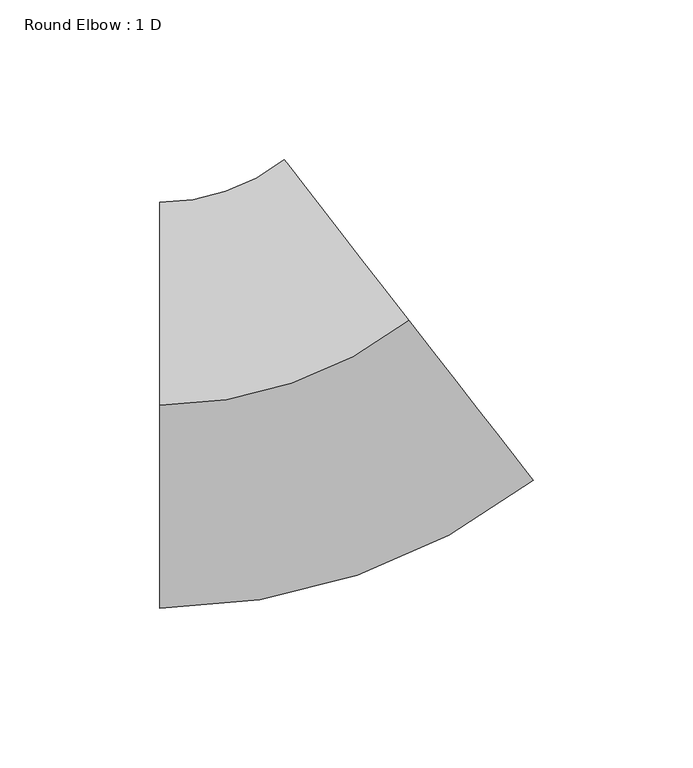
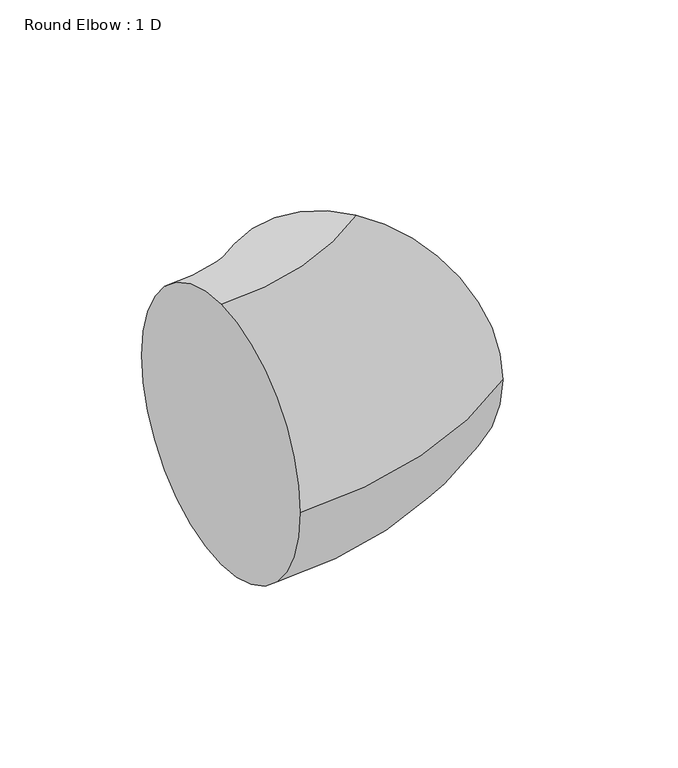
"""IFC4 building model written with IfcOpenShell, lengths in millimetres: duct fitting geometry, Round Elbow : 1 D."""

from ifc_helpers import new_model, si_unit, point, frame, origin, place, context, project, spatial, circle_curve, ellipse_curve, trimmed, source, transform, mapped, element, save
from ifc_brep_helpers import plane_surface, revolved_surface, advanced_brep


def round_elbow_1_d_50e30291(model_context):
    return source(origin(), model_context, "Body", "AdvancedBrep", [
        advanced_brep(
        [(-43.5119525, 0.0, 63.5), (-43.5119525, 63.5, 0.0), (-43.5119525, 0.0, -63.5), (-43.5119525, -63.5, 0.0), (34.3698573, 26.6833827, 63.5), (73.3107622, -23.4749259, 0.0), (34.3698573, 26.6833827, -63.5), (-4.5710476, 76.8416914, 0.0)],
        [
            (0, 1, circle_curve(frame((-43.5119525, 0.0, 0.0), z_axis=(-1.0, 0.0, 0.0), x_axis=(0.0, 1.0, 0.0)), 63.5)),
            (1, 2, circle_curve(frame((-43.5119525, 0.0, 0.0), z_axis=(-1.0, 0.0, 0.0), x_axis=(0.0, 1.0, 0.0)), 63.5)),
            (2, 3, circle_curve(frame((-43.5119525, 0.0, 0.0), z_axis=(-1.0, 0.0, 0.0), x_axis=(0.0, 1.0, 0.0)), 63.5)),
            (3, 0, circle_curve(frame((-43.5119525, 0.0, 0.0), z_axis=(-1.0, 0.0, 0.0), x_axis=(0.0, 1.0, 0.0)), 63.5)),
            (4, 5, circle_curve(frame((34.3698573, 26.6833827, 0.0), z_axis=(0.7898946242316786, 0.6132425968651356, 0.0), x_axis=(-0.6132425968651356, 0.7898946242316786, 0.0)), 63.5)),
            (5, 6, circle_curve(frame((34.3698573, 26.6833827, 0.0), z_axis=(0.7898946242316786, 0.6132425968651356, 0.0), x_axis=(-0.6132425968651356, 0.7898946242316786, 0.0)), 63.5)),
            (6, 7, circle_curve(frame((34.3698573, 26.6833827, 0.0), z_axis=(0.7898946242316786, 0.6132425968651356, 0.0), x_axis=(-0.6132425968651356, 0.7898946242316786, 0.0)), 63.5)),
            (7, 4, circle_curve(frame((34.3698573, 26.6833827, 0.0), z_axis=(0.7898946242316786, 0.6132425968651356, 0.0), x_axis=(-0.6132425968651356, 0.7898946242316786, 0.0)), 63.5)),
            (7, 1, circle_curve(frame((-43.5119525, 127.0, 0.0), z_axis=(0.0, 0.0, -1.0), x_axis=(0.0, -1.0, 0.0)), 63.5)),
            (0, 4, circle_curve(frame((-43.5119525, 127.0, 63.5), z_axis=(0.0, 0.0, 1.0), x_axis=(0.0, -1.0, 0.0)), 127.0)),
            (6, 2, circle_curve(frame((-43.5119525, 127.0, -63.5), z_axis=(0.0, 0.0, -1.0), x_axis=(0.0, -1.0, 0.0)), 127.0)),
            (5, 3, circle_curve(frame((-43.5119525, 127.0, 0.0), z_axis=(0.0, 0.0, -1.0), x_axis=(0.0, -1.0, 0.0)), 190.5)),
        ],
        [
            plane_surface(frame((-43.5119525, 0.0, 0.0), z_axis=(-1.0, 0.0, 0.0), x_axis=(0.0, 0.0, 1.0))),
            plane_surface(frame((34.3698573, 26.6833827, 0.0), z_axis=(0.7898946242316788, 0.6132425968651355, 0.0), x_axis=(0.0, 0.0, 1.0))),
            revolved_surface(trimmed(ellipse_curve(frame((-43.5119525, 0.0, 0.0), z_axis=(-1.0, 0.0, 0.0), x_axis=(0.0, 1.0, 0.0)), 63.5, 63.5), [point((-43.5119525, 0.0, 63.5))], [point((-43.5119525, 63.5, 0.0))], True, "CARTESIAN"), (-43.5119525, 127.0, 0.0), (0.0, 0.0, 1.0)),
            revolved_surface(trimmed(ellipse_curve(frame((-43.5119525, 0.0, 0.0), z_axis=(-1.0, 0.0, 0.0), x_axis=(0.0, 1.0, 0.0)), 63.5, 63.5), [point((-43.5119525, 63.5, 0.0))], [point((-43.5119525, 0.0, -63.5))], True, "CARTESIAN"), (-43.5119525, 127.0, 0.0), (0.0, 0.0, 1.0)),
            revolved_surface(trimmed(ellipse_curve(frame((-43.5119525, 0.0, 0.0), z_axis=(-1.0, 0.0, 0.0), x_axis=(0.0, 1.0, 0.0)), 63.5, 63.5), [point((-43.5119525, 0.0, -63.5))], [point((-43.5119525, -63.5, 0.0))], True, "CARTESIAN"), (-43.5119525, 127.0, 0.0), (0.0, 0.0, 1.0)),
            revolved_surface(trimmed(ellipse_curve(frame((-43.5119525, 0.0, 0.0), z_axis=(-1.0, 0.0, 0.0), x_axis=(0.0, 1.0, 0.0)), 63.5, 63.5), [point((-43.5119525, -63.5, 0.0))], [point((-43.5119525, 0.0, 63.5))], True, "CARTESIAN"), (-43.5119525, 127.0, 0.0), (0.0, 0.0, 1.0)),
        ],
        [
            (0, [[1, 2, 3, 4]]),
            (1, [[5, 6, 7, 8]]),
            (2, [[9, -1, 10, -8]]),
            (3, [[11, -2, -9, -7]]),
            (4, [[12, -3, -11, -6]]),
            (5, [[-10, -4, -12, -5]]),
        ],
    ),
    ])


if __name__ == "__main__":
    model = new_model("IFC4")
    model_context = context("Model", 3, world=origin())
    ifc_project = project(units=[si_unit("LENGTHUNIT", "METRE", prefix="MILLI")], contexts=[model_context])
    site = spatial("IfcSite", under=ifc_project)
    building = spatial("IfcBuilding", under=site)
    placement = place(None, origin())
    round_elbow_1_d_shape = round_elbow_1_d_50e30291(model_context)
    element("IfcDuctFitting", 1, ObjectType="Round Elbow : 1 D", at=placement, inside=building, context=model_context, shape_type="MappedRepresentation", body=[
        mapped(round_elbow_1_d_shape, transform((0.0, 0.0, 0.0), x_axis=(1.0, 0.0, 0.0), y_axis=(0.0, 1.0, 0.0), z_axis=(0.0, 0.0, 1.0))),
    ])
    save(model, "model.ifc")
